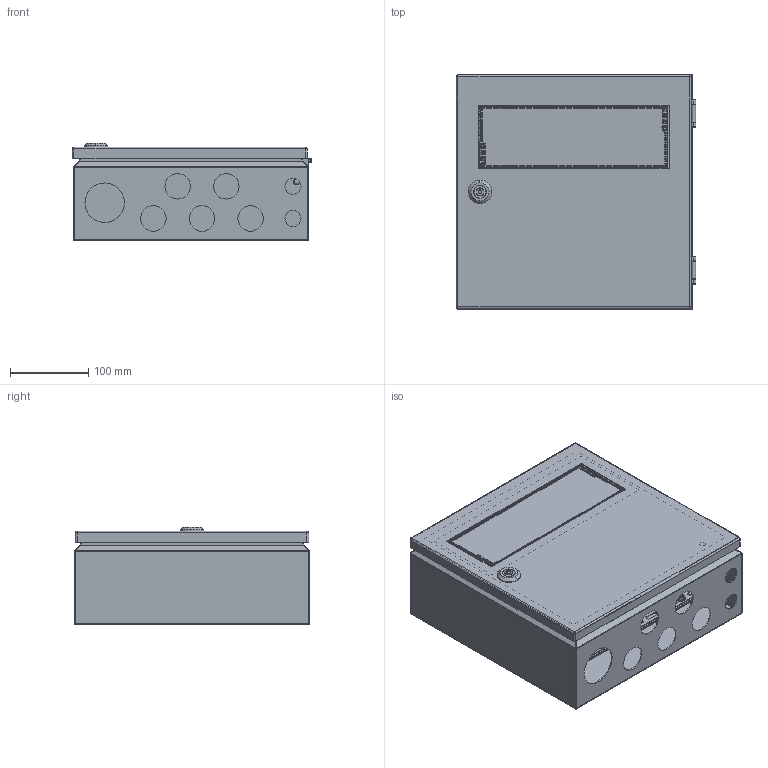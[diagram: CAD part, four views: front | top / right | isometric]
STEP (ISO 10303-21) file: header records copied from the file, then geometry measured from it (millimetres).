
FILE_DESCRIPTION (( 'STEP AP203' ), '1' );
FILE_NAME ('MEV 30.30.12 M Øêàô êîìïàêòíûé ðàñïðåäåëèòåëüíûé ñ îáçîðíîé äâåðüþ.STEP', '2015-02-12T07:41:51', ( 'System' ), ( '' ), 'SwSTEP 2.0', 'SolidWorks 2012', '' );
FILE_SCHEMA (( 'CONFIG_CONTROL_DESIGN' ));
Length unit declared in the file: millimetre
Products named in the file (8): MEV 30.30.12 M Øêàô êîìïàêòíûé ðàñïðåäåëèòåëüíûé ñ îáçîðíîé äâåðüþ; Êîðïóñíàÿ ÷àñòü ÑÁ; ãàéêà Ì4 ñ ôëàíöåì îö. ; 216-0140 frame part; Ãàéêà Ì5 ñ ôëàíöåì DIN 6923; MES 20.20 03.000ﾑﾁ ﾄ粢_MEV 30.30 03.000早 ┐･瑟; DR 07.90 Ex DIN-ðåéêà_DR 07.285 Ex DIN-à¥©ª ; MES 20.20.08 01.000蚜 暑痫篑_MEV 30.30.12 M 01.000憗 姰喁汜
Assembly tree (12 placements, depth 3):
  MEV 30.30.12 M Øêàô êîìïàêòíûé ðàñïðåäåëèòåëüíûé ñ îáçîðíîé äâåðüþ
    MES 20.20.08 01.000蚜 暑痫篑_MEV 30.30.12 M 01.000憗 姰喁汜
    DR 07.90 Ex DIN-ðåéêà_DR 07.285 Ex DIN-à¥©ª   x2
    MES 20.20 03.000ﾑﾁ ﾄ粢_MEV 30.30 03.000早 ┐･瑟
    Ãàéêà Ì5 ñ ôëàíöåì DIN 6923  x4
    Êîðïóñíàÿ ÷àñòü ÑÁ  x2
      216-0140 frame part
      ãàéêà Ì4 ñ ôëàíöåì îö. 
Bounding box: 305.8 x 300 x 124.5 mm (x, y, z)
Volume: 590072.3 mm3; surface area: 746578.9 mm2
Topology: 39 solids, 39 shells, 2670 faces, 6808 edges, 4358 vertices
Faces by surface type: plane 1317, cylinder 964, bspline 220, cone 128, torus 25, sphere 16
Entity records: 70402 total; most frequent: CARTESIAN_POINT 16467, ORIENTED_EDGE 11042, DIRECTION 10937, EDGE_CURVE 5521, AXIS2_PLACEMENT_3D 3951, VERTEX_POINT 3579, VECTOR 3035, LINE 3035
